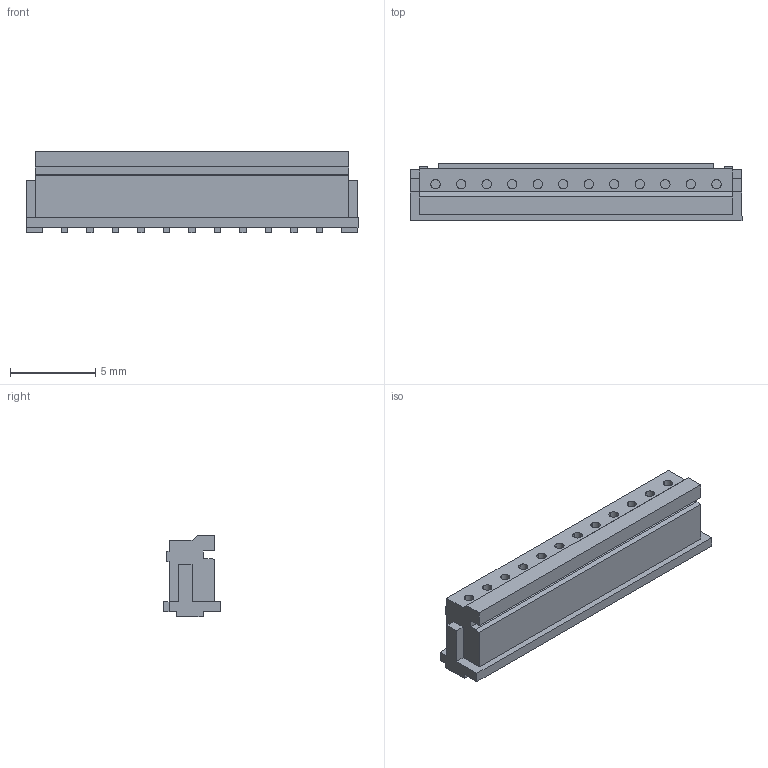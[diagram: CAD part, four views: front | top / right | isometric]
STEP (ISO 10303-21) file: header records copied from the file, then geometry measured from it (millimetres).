
FILE_DESCRIPTION (( 'STEP AP214' ), '1' );
FILE_NAME ('ZHR-12.STEP', '2012-02-07T01:44:40', ( ' ' ), ( ' ' ), 'SwSTEP 2.0', 'SolidWorks 2005235', '' );
FILE_SCHEMA (( 'AUTOMOTIVE_DESIGN' ));
Length unit declared in the file: millimetre
Products named in the file (1): ZHR-12
Bounding box: 19.5 x 3.4 x 4.8 mm (x, y, z)
Volume: 214.9 mm3; surface area: 390.6 mm2
Topology: 1 solids, 1 shells, 173 faces, 429 edges, 270 vertices
Faces by surface type: plane 149, cylinder 24
Entity records: 6933 total; most frequent: CARTESIAN_POINT 873, ORIENTED_EDGE 858, DIRECTION 825, EDGE_CURVE 429, VECTOR 381, LINE 381, VERTEX_POINT 270, AXIS2_PLACEMENT_3D 222
